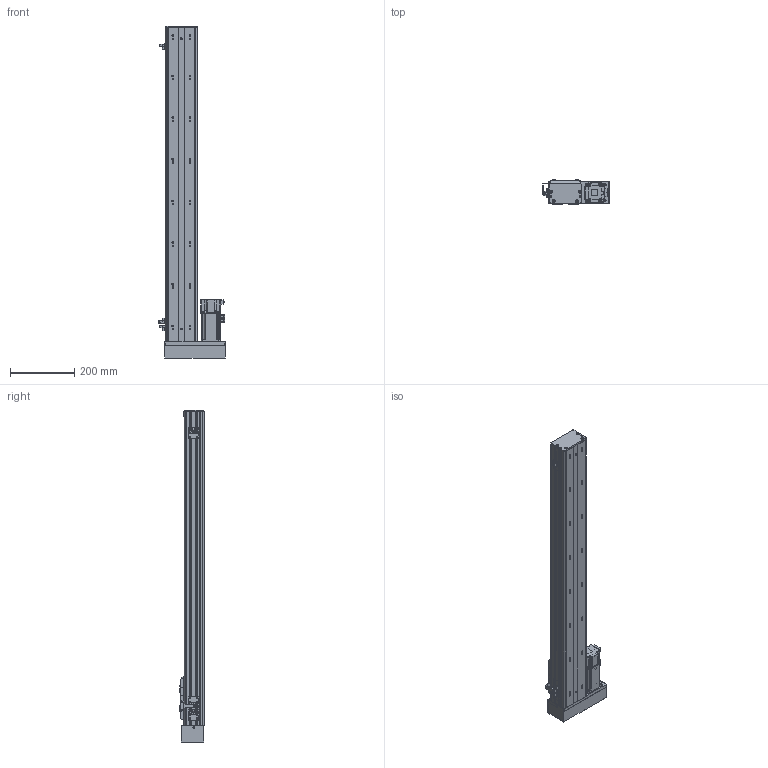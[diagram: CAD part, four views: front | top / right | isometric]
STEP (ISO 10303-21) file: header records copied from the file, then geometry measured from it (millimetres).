
FILE_DESCRIPTION (( 'STEP AP203' ), '1' );
FILE_NAME ('BOSW100-800-1610-1P-LM-M400W-O-S3（方程式2016）.step', '2020-10-10T06:59:11', ( '' ), ( '' ), 'SwSTEP 2.0', 'SolidWorks 2016', '' );
FILE_SCHEMA (( 'CONFIG_CONTROL_DESIGN' ));
Length unit declared in the file: millimetre
Products named in the file (14): BOSW&TW-100-詩湍揤沭(陔賦凳); BOSW&TW-100-俋离覜茼え; AIMS(W)-100-LM&RM-肮祭謫欶; BOSW-100-綴裔啣; BOSW-100-1P-DM-800諦誧芞; BOSW100-800-1610-1P-LM-M400W-O-S3（方程式2016）; BOSW-100-1P-DM-宽轨-侧板-800客户图纸; BOSW-100-1P-DM-宽轨-钢带-800客户图纸; 俋境嫖覜嘐隅啣; 新结构AIMSW-100-1P-宽&高轨共用-滑动座上组件; boS-100-LM&RM-三菱M400W马达板-宽轨; BOSW&TW-100-1P-賑雄釱欶; S400W(SMA-L040); 放大器内置U型微型光电传感器PM-L65
Assembly tree (19 placements, depth 2):
  BOSW100-800-1610-1P-LM-M400W-O-S3（方程式2016）
    BOSW-100-1P-DM-800諦誧芞
    BOSW-100-綴裔啣
    新结构AIMSW-100-1P-宽&高轨共用-滑动座上组件
    S400W(SMA-L040)
    BOSW&TW-100-詩湍揤沭(陔賦凳)  x2
    BOSW&TW-100-1P-賑雄釱欶
    BOSW&TW-100-俋离覜茼え
    俋境嫖覜嘐隅啣  x3
    放大器内置U型微型光电传感器PM-L65  x3
    BOSW-100-1P-DM-宽轨-侧板-800客户图纸  x2
    BOSW-100-1P-DM-宽轨-钢带-800客户图纸
    AIMS(W)-100-LM&RM-肮祭謫欶
    boS-100-LM&RM-三菱M400W马达板-宽轨
Bounding box: 207.9 x 75 x 1036 mm (x, y, z)
Volume: 2291631.1 mm3; surface area: 1070784.3 mm2
Topology: 19 solids, 20 shells, 2549 faces, 6735 edges, 4299 vertices
Faces by surface type: plane 1245, cylinder 818, bspline 271, cone 167, torus 36, sphere 12
Entity records: 70148 total; most frequent: CARTESIAN_POINT 20968, ORIENTED_EDGE 10010, DIRECTION 9705, EDGE_CURVE 5005, AXIS2_PLACEMENT_3D 3449, VERTEX_POINT 3201, VECTOR 2807, LINE 2807
